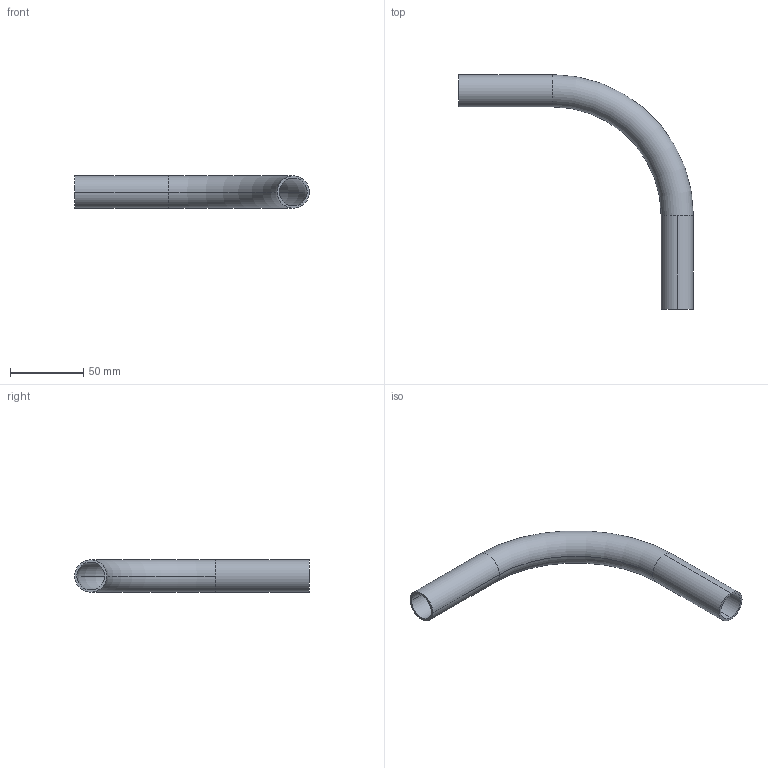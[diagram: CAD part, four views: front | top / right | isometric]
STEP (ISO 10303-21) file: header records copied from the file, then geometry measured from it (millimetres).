
FILE_DESCRIPTION (( 'STEP AP203' ), '1' );
FILE_NAME ('059.022.101.STEP', '2016-10-19T13:03:20', ( 'Utente' ), ( '' ), 'SwSTEP 2.0', 'SolidWorks 2016', '' );
FILE_SCHEMA (( 'CONFIG_CONTROL_DESIGN' ));
Length unit declared in the file: millimetre
Products named in the file (1): 059.022.101
Bounding box: 160 x 160 x 22 mm (x, y, z)
Volume: 25263.6 mm3; surface area: 33878.1 mm2
Topology: 1 solids, 1 shells, 14 faces, 32 edges, 20 vertices
Faces by surface type: cylinder 8, torus 4, plane 2
Entity records: 489 total; most frequent: DIRECTION 86, CARTESIAN_POINT 67, ORIENTED_EDGE 64, AXIS2_PLACEMENT_3D 39, EDGE_CURVE 32, CIRCLE 24, VERTEX_POINT 20, EDGE_LOOP 16
